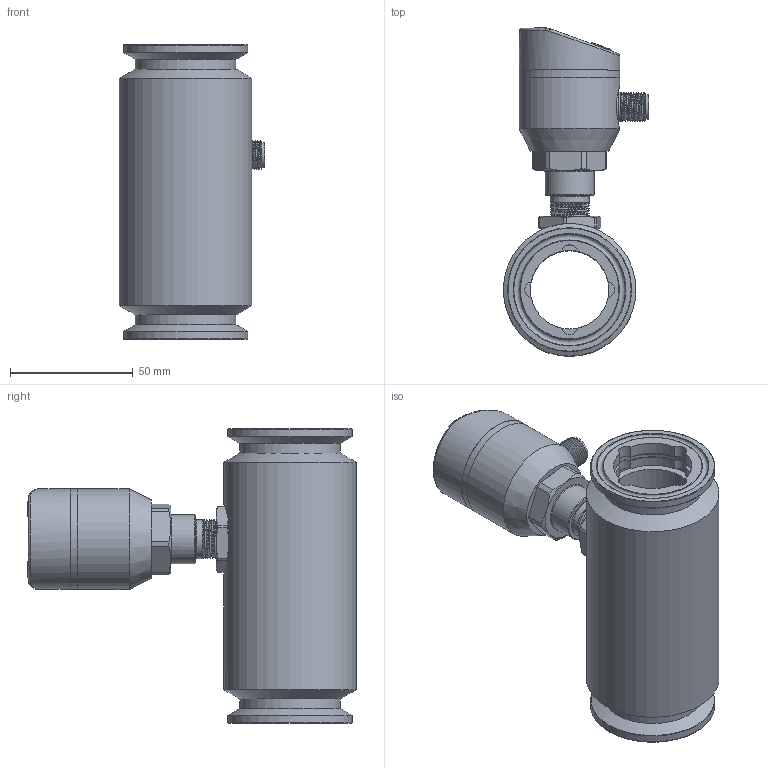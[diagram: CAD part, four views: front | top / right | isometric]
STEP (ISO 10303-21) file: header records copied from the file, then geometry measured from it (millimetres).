
FILE_DESCRIPTION( (''), '2;1');
FILE_NAME( 'QTKA_DN32_tri-clamp.step', '2024-01-11T14:16:46+08:00', (''), (''), '', '', '');
FILE_SCHEMA (('AUTOMOTIVE_DESIGN { 1 0 10303 214 3 1 1 1 }'));
Length unit declared in the file: millimetre
Products named in the file (1): QTKA DN32_tri-clamp
Bounding box: 59.18 x 133.8 x 120 mm (x, y, z)
Volume: 190994 mm3; surface area: 64149.9 mm2
Topology: 5 solids, 7 shells, 495 faces, 1196 edges, 759 vertices
Faces by surface type: cylinder 176, plane 169, cone 53, torus 49, bspline 42, sphere 6
Full cylindrical faces by diameter (mm): 1 x5, 2.7 x4, 8.4 x1, 9.7 x1, 9.8 x1, 10.1 x1, 11.6 x1, 12 x1, 15.9 x1, 16.5 x1, 20 x1, 23 x3, 26 x4, 26.1 x1, 32 x1, 36.5 x2, 37 x1, 38 x2, 41 x5, 50.5 x2, 54 x1
Entity records: 31200 total; most frequent: CARTESIAN_POINT 18774, DIRECTION 2284, ORIENTED_EDGE 2154, EDGE_CURVE 1077, AXIS2_PLACEMENT_3D 937, VERTEX_POINT 710, EDGE_LOOP 615, ADVANCED_FACE 493
